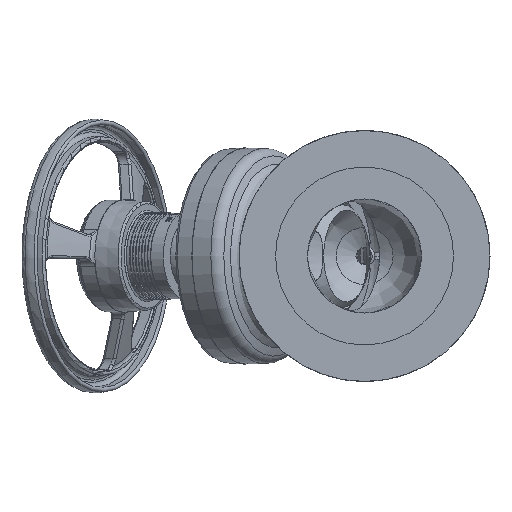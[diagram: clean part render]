
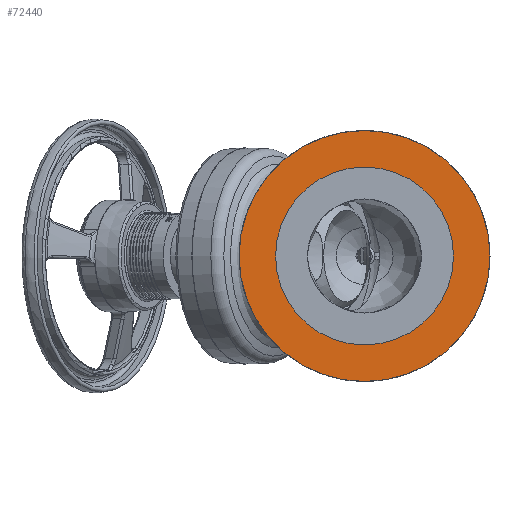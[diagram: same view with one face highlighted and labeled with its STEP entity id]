
A CAD part, left-side view. The second image highlights one B-rep face of the part: STEP entity #72440.
In plain terms, the highlighted planar face has unit normal (-1, 0, 0).
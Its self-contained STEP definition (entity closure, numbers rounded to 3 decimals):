
#68432=CARTESIAN_POINT('',(-345.,-110.,0.0));
#68433=VERTEX_POINT('',#68432);
#68434=CARTESIAN_POINT('',(-345.,0.,0.0));
#68435=DIRECTION('',(-1.0,0.0,0.0));
#68436=DIRECTION('',(0.0,-1.0,0.0));
#68437=AXIS2_PLACEMENT_3D('',#68434,#68435,#68436);
#68438=CIRCLE('',#68437,110.);
#68439=EDGE_CURVE('',#68433,#68433,#68438,.T.);
#72421=CARTESIAN_POINT('',(-345.,-94.,0.0));
#72422=DIRECTION('',(-1.0,0.0,0.0));
#72423=DIRECTION('',(0.0,0.0,1.0));
#72424=AXIS2_PLACEMENT_3D('',#72421,#72422,#72423);
#72425=PLANE('',#72424);
#72426=ORIENTED_EDGE('',*,*,#68439,.T.);
#72427=EDGE_LOOP('',(#72426));
#72428=FACE_OUTER_BOUND('',#72427,.T.);
#72429=CARTESIAN_POINT('',(-345.,-78.,0.0));
#72430=VERTEX_POINT('',#72429);
#72431=CARTESIAN_POINT('',(-345.,0.,0.0));
#72432=DIRECTION('',(-1.0,0.0,0.0));
#72433=DIRECTION('',(0.0,-1.0,0.0));
#72434=AXIS2_PLACEMENT_3D('',#72431,#72432,#72433);
#72435=CIRCLE('',#72434,78.);
#72436=EDGE_CURVE('',#72430,#72430,#72435,.T.);
#72437=ORIENTED_EDGE('',*,*,#72436,.F.);
#72438=EDGE_LOOP('',(#72437));
#72439=FACE_BOUND('',#72438,.T.);
#72440=ADVANCED_FACE('',(#72428,#72439),#72425,.T.);
